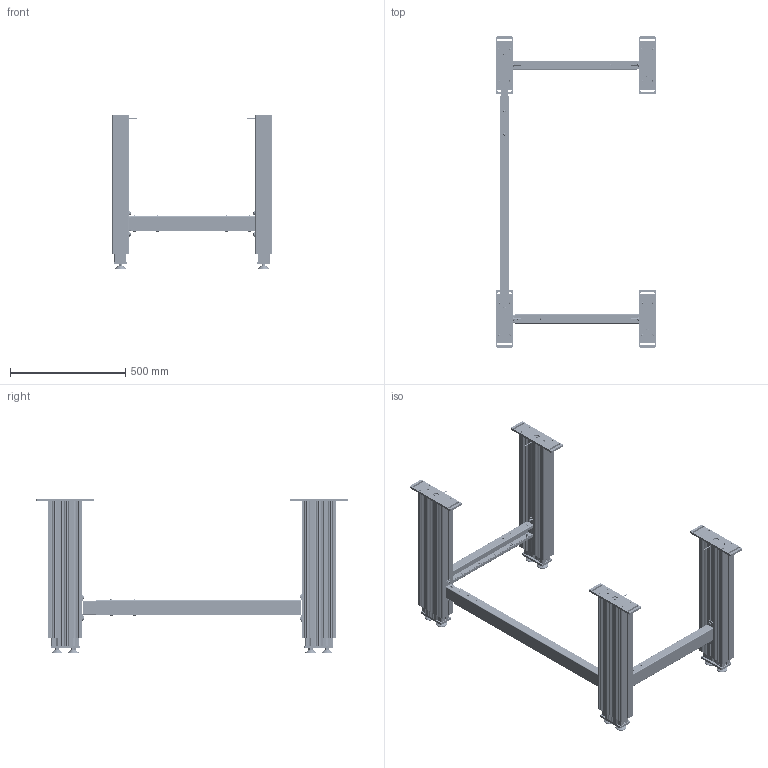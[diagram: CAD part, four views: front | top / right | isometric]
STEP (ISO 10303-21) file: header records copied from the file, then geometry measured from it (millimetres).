
FILE_DESCRIPTION(/* description */ ('Unknown','CAx-IF Rec.Pracs.---Representation and Presentation of Product Manufacturing Information (PMI)---4.0---2014-10-13','CAx-IF Rec.Pracs.---3D Tessellated Geometry---0.4---2014-09-14','2;1'),/* implementation_level */ '2;1');
FILE_NAME(/* name */ 'Untergestell TM 4440 1050-1700 XX XX_00-Eingefahren',/* time_stamp */ '2022-08-30T16:40:40+02:00',/* author */ ('Unknown'),/* organization */ ('Unknown'),/* preprocessor_version */ 'ST-DEVELOPER v18.102',/* originating_system */ 'Solid Edge',/* authorisation */ 'Unknown');
FILE_SCHEMA (('AP242_MANAGED_MODEL_BASED_3D_ENGINEERING_MIM_LF { 1 0 10303 442 1 1 4 }'));
Products named in the file (47): 108.00324; 306.00814_oa_0; 126.00147; 119.00312; 119.00311; 142.00166; 142.00343; 113.00002; 124.00123; 142.00081; 142.00031; 109.00025_oa_1; 125.00063; 115.00008_oa_2; 125.00021; 125.00022; 127.00329; 113.00006; 113.00006-ohne Mutter; Mutter M10; 306.00814_oa_3; 109.00025_oa_4; 115.00008_oa_5; 306.00814_oa_6; 109.00025_oa_7; 115.00008_oa_8; 306.00814_oa_9; 109.00025_oa_10; 115.00008_oa_11; 127.00631; 096599~1; 096600~1; Sechskantmutter M6 DIN 934; Scheibe Ø6,4 DIN 125; Halbrundkopfschraube mit Innensechskant M8x12 ISO 7380-1; Scheibe Ø8,4 DIN 125; Nutenstein M8_montiert; Halbrundkopfschraube mit Innensechskant und Bund M6x16 ISO 7380-2; 127.00632; 096611~1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
Assembly tree (145 placements, depth 4):
  108.00324
    306.00814_oa_0
      126.00147
      119.00312
      119.00311
      142.00166  x4
      142.00343  x2
      113.00002
      124.00123
      142.00081
      142.00031
      109.00025_oa_1
        125.00063
        115.00008_oa_2
        125.00021
        125.00022
    127.00329  x4
    113.00006  x8
      113.00006-ohne Mutter
      Mutter M10
    306.00814_oa_3
      126.00147
      119.00312
      119.00311
      142.00166  x4
      142.00343  x2
      113.00002
      124.00123
      142.00081
      142.00031
      109.00025_oa_4
        125.00063
        115.00008_oa_5
        125.00021
        125.00022
    306.00814_oa_6
      126.00147
      119.00312
      119.00311
      142.00166  x4
      142.00343  x2
      113.00002
      124.00123
      142.00081
      142.00031
      109.00025_oa_7
        125.00063
        115.00008_oa_8
        125.00021
        125.00022
    306.00814_oa_9
      126.00147
      119.00312
      119.00311
      142.00166  x4
      142.00343  x2
      113.00002
      124.00123
      142.00081
      142.00031
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Bounding box: 690 x 1350 x 670 mm (x, y, z)
Volume: 12324753.2 mm3; surface area: 6431807 mm2
Topology: 162 solids, 162 shells, 12448 faces, 35122 edges, 23206 vertices
Faces by surface type: plane 6712, cylinder 4984, cone 304, torus 288, bspline 148, sphere 12
Full cylindrical faces by diameter (mm): 1.8 x8, 2.2 x4, 3 x4, 3.242 x8, 3.4 x4, 3.5 x4, 4 x12, 4.1 x8, 4.2 x4, 4.9 x8, 5 x20, 5.5 x16, 6 x28, 6.4 x12, 6.5 x4, 6.6 x20, 6.647 x12, 6.917 x8, 8 x32, 8.376 x20, 8.5 x64, 8.7 x16, 9.5 x8, 10 x12, 12 x12, 12.5 x24, 13 x8, 13.5 x4, 13.6 x12, 14 x12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
Entity records: 113791 total; most frequent: CARTESIAN_POINT 19892, ORIENTED_EDGE 17008, DIRECTION 16964, EDGE_CURVE 8504, AXIS2_PLACEMENT_3D 5731, VERTEX_POINT 5730, LINE 5502, VECTOR 5502
